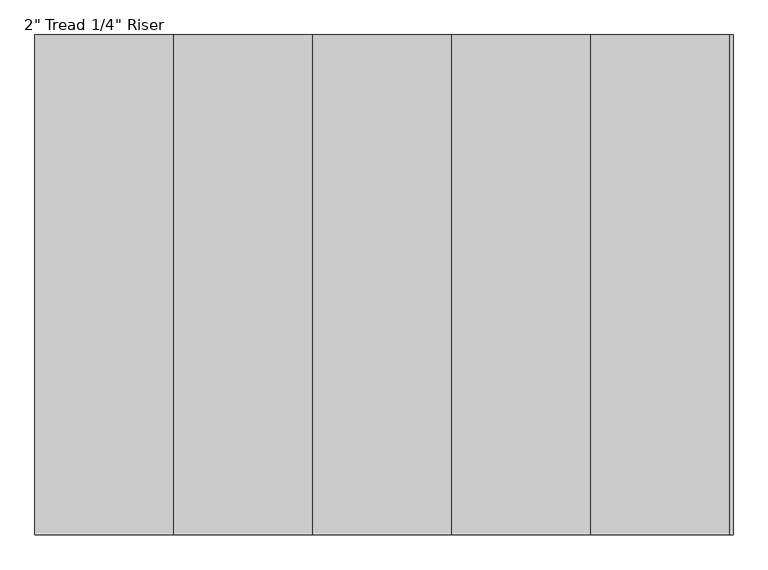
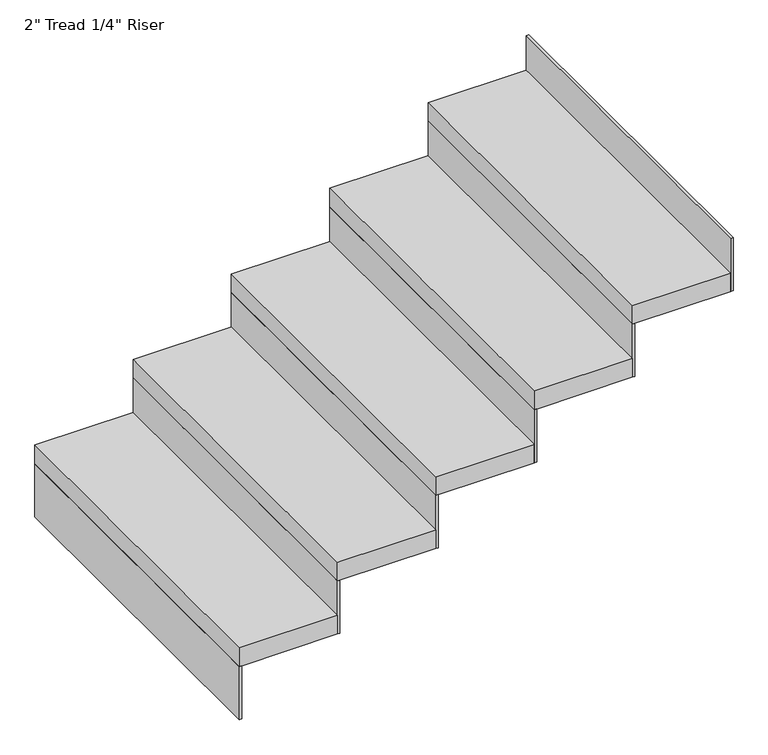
"""IFC4 building model written with IfcOpenShell, lengths in millimetres: stair flight geometry."""

from ifc_helpers import new_model, si_unit, frame, origin, place, context, project, spatial, polyline, outline, extrude, source, transform, mapped, element, save


def stair_flight_d0af4276(model_context):
    return source(origin(), model_context, "Body", "SweptSolid", [
        extrude(outline(polyline([(89079.3548368, -2400.7855758), (89073.0048368, -2400.7855758), (89073.0048368, -1486.3855758), (89079.3548368, -1486.3855758), (89079.3548368, -2400.7855758)])), frame((0.0, 0.0, 2126.3428571), z_axis=(0.0, 0.0, 1.0), x_axis=(1.0, 0.0, 0.0)), (0.0, 0.0, 1.0), 145.1428571),
        extrude(outline(polyline([(89327.0048368, -1486.3855758), (89327.0048368, -2400.7855758), (89073.0048368, -2400.7855758), (89073.0048368, -1486.3855758), (89327.0048368, -1486.3855758)])), frame((0.0, 0.0, 2271.4857143), z_axis=(0.0, 0.0, 1.0), x_axis=(1.0, 0.0, 0.0)), (0.0, 0.0, 1.0), 50.8),
        extrude(outline(polyline([(89333.3548368, -2400.7855758), (89327.0048368, -2400.7855758), (89327.0048368, -1486.3855758), (89333.3548368, -1486.3855758), (89333.3548368, -2400.7855758)])), frame((0.0, 0.0, 2271.4857143), z_axis=(0.0, 0.0, 1.0), x_axis=(1.0, 0.0, 0.0)), (0.0, 0.0, 1.0), 145.1428571),
        extrude(outline(polyline([(89581.0048368, -1486.3855758), (89581.0048368, -2400.7855758), (89327.0048368, -2400.7855758), (89327.0048368, -1486.3855758), (89581.0048368, -1486.3855758)])), frame((0.0, 0.0, 2416.6285714), z_axis=(0.0, 0.0, 1.0), x_axis=(1.0, 0.0, 0.0)), (0.0, 0.0, 1.0), 50.8),
        extrude(outline(polyline([(89587.3548368, -2400.7855758), (89581.0048368, -2400.7855758), (89581.0048368, -1486.3855758), (89587.3548368, -1486.3855758), (89587.3548368, -2400.7855758)])), frame((0.0, 0.0, 2416.6285714), z_axis=(0.0, 0.0, 1.0), x_axis=(1.0, 0.0, 0.0)), (0.0, 0.0, 1.0), 145.1428571),
        extrude(outline(polyline([(89835.0048368, -1486.3855758), (89835.0048368, -2400.7855758), (89581.0048368, -2400.7855758), (89581.0048368, -1486.3855758), (89835.0048368, -1486.3855758)])), frame((0.0, 0.0, 2561.7714286), z_axis=(0.0, 0.0, 1.0), x_axis=(1.0, 0.0, 0.0)), (0.0, 0.0, 1.0), 50.8),
        extrude(outline(polyline([(89841.3548368, -2400.7855758), (89835.0048368, -2400.7855758), (89835.0048368, -1486.3855758), (89841.3548368, -1486.3855758), (89841.3548368, -2400.7855758)])), frame((0.0, 0.0, 2561.7714286), z_axis=(0.0, 0.0, 1.0), x_axis=(1.0, 0.0, 0.0)), (0.0, 0.0, 1.0), 145.1428571),
        extrude(outline(polyline([(90089.0048368, -1486.3855758), (90089.0048368, -2400.7855758), (89835.0048368, -2400.7855758), (89835.0048368, -1486.3855758), (90089.0048368, -1486.3855758)])), frame((0.0, 0.0, 2706.9142857), z_axis=(0.0, 0.0, 1.0), x_axis=(1.0, 0.0, 0.0)), (0.0, 0.0, 1.0), 50.8),
        extrude(outline(polyline([(90095.3548368, -2400.7855758), (90089.0048368, -2400.7855758), (90089.0048368, -1486.3855758), (90095.3548368, -1486.3855758), (90095.3548368, -2400.7855758)])), frame((0.0, 0.0, 2706.9142857), z_axis=(0.0, 0.0, 1.0), x_axis=(1.0, 0.0, 0.0)), (0.0, 0.0, 1.0), 145.1428571),
        extrude(outline(polyline([(90349.3548368, -2400.7855758), (90343.0048368, -2400.7855758), (90343.0048368, -1486.3855758), (90349.3548368, -1486.3855758), (90349.3548368, -2400.7855758)])), frame((0.0, 0.0, 2852.0571429), z_axis=(0.0, 0.0, 1.0), x_axis=(1.0, 0.0, 0.0)), (0.0, 0.0, 1.0), 145.1428571),
        extrude(outline(polyline([(90343.0048368, -1486.3855758), (90343.0048368, -2400.7855758), (90089.0048368, -2400.7855758), (90089.0048368, -1486.3855758), (90343.0048368, -1486.3855758)])), frame((0.0, 0.0, 2852.0571429), z_axis=(0.0, 0.0, 1.0), x_axis=(1.0, 0.0, 0.0)), (0.0, 0.0, 1.0), 50.8),
    ])


if __name__ == "__main__":
    model = new_model("IFC4")
    model_context = context("Model", 3, world=origin())
    ifc_project = project(units=[si_unit("LENGTHUNIT", "METRE", prefix="MILLI")], contexts=[model_context])
    site = spatial("IfcSite", under=ifc_project)
    building = spatial("IfcBuilding", under=site)
    placement = place(None, origin())
    stair_flight_shape = stair_flight_d0af4276(model_context)
    element("IfcStairFlight", 1, ObjectType="2\" Tread 1/4\" Riser", at=placement, inside=building, context=model_context, shape_type="MappedRepresentation", body=[
        mapped(stair_flight_shape, transform((0.0, 0.0, 0.0), x_axis=(1.0, 0.0, 0.0), y_axis=(0.0, 1.0, 0.0), z_axis=(0.0, 0.0, 1.0))),
    ])
    save(model, "model.ifc")
